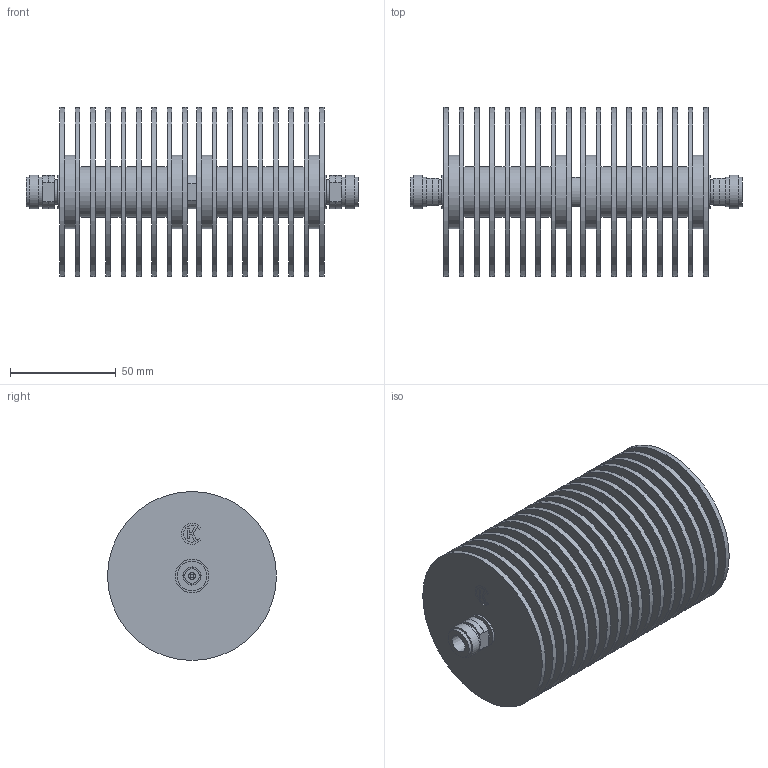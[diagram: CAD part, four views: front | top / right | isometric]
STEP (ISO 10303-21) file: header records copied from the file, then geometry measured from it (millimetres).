
FILE_DESCRIPTION(('STEP AP203'), '1');
FILE_NAME('ÏÐ1-25-100-2-NFF', '', ('UNSPECIFIED'), ('UNSPECIFIED'), 'C3D Converter', 'C3D Toolkit', '');
FILE_SCHEMA(('CONFIG_CONTROL_DESIGN'));
Length unit declared in the file: millimetre
Products named in the file (5): -01
Assembly tree (5 placements, depth 2):
  (unnamed)
    (unnamed)
    (unnamed)  x2
    (unnamed)
    -01
Bounding box: 157.1 x 80 x 80 mm (x, y, z)
Volume: 259334.8 mm3; surface area: 185688.2 mm2
Topology: 5 solids, 5 shells, 227 faces, 464 edges, 308 vertices
Faces by surface type: plane 140, cylinder 81, torus 4, cone 2
Full cylindrical faces by diameter (mm): 1.66 x2, 3.04 x2, 7 x2, 8.06 x2, 11.6 x2, 14 x4, 15.87 x2, 16 x7, 24 x12, 35 x4, 80 x18
Entity records: 5750 total; most frequent: CARTESIAN_POINT 1142, DIRECTION 698, ORIENTED_EDGE 528, AXIS2_PLACEMENT_3D 286, EDGE_CURVE 264, EDGE_LOOP 230, VERTEX_POINT 202, FACE_BOUND 155
